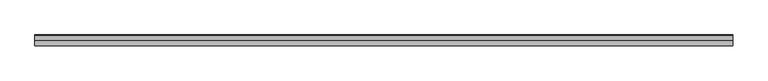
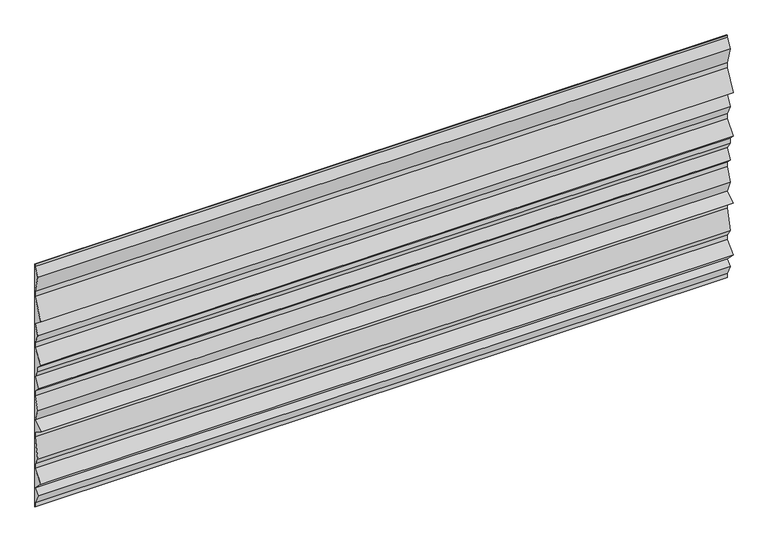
"""IFC4 building model written with IfcOpenShell, lengths in millimetres: plate geometry, ATELIERS 3S_GLACE PISSAILLAS 1000_HORIZONTAL : AZURO."""

from ifc_helpers import new_model, si_unit, frame, origin, place, context, project, spatial, polyline, outline, extrude, source, transform, mapped, element, save


def plate_bc900c31(model_context):
    return source(origin(), model_context, "Body", "SweptSolid", [
        extrude(outline(polyline([(-0.8, 0.0), (-0.8, 16.9163895), (-20.9135393, 57.5498441), (-1.0660999, 76.9962838), (-41.0606602, 116.9908441), (-0.75, 157.3015043), (-0.75, 176.7637624), (-20.8080747, 206.8508744), (-0.75, 287.0831733), (-0.75, 306.5751584), (-41.4150972, 331.9908441), (-0.9292392, 357.2945053), (-20.8077747, 406.9908441), (-0.75, 457.1352809), (-0.75, 476.6801839), (-20.9125704, 496.8427543), (-0.8654665, 536.9369621), (-20.75, 566.7637624), (-20.75, 586.6801839), (-41.009736, 606.9399199), (-0.75, 656.2580964), (-0.75, 675.8137931), (-20.8385255, 715.9908441), (-0.9507458, 755.7664035), (-40.9507458, 785.7664035), (-0.75, 866.1678951), (-0.75, 885.8862432), (-20.8096981, 956.4025169), (-0.8, 990.1124394), (-0.8, 1000.0), (0.0, 1000.0), (0.0, 0.0), (-0.8, 0.0)])), frame((-1347.25, 0.0, 0.0), z_axis=(1.0, 0.0, 0.0), x_axis=(0.0, 1.0, 0.0)), (0.0, 0.0, 1.0), 2694.5),
    ])


if __name__ == "__main__":
    model = new_model("IFC4")
    model_context = context("Model", 3, world=origin())
    ifc_project = project(units=[si_unit("LENGTHUNIT", "METRE", prefix="MILLI")], contexts=[model_context])
    site = spatial("IfcSite", under=ifc_project)
    building = spatial("IfcBuilding", under=site)
    placement = place(None, origin())
    plate_shape = plate_bc900c31(model_context)
    element("IfcPlate", 1, ObjectType="ATELIERS 3S_GLACE PISSAILLAS 1000_HORIZONTAL : AZURO", at=placement, inside=building, context=model_context, shape_type="MappedRepresentation", body=[
        mapped(plate_shape, transform((0.0, 0.0, 0.0), x_axis=(1.0, 0.0, 0.0), y_axis=(0.0, 1.0, 0.0), z_axis=(0.0, 0.0, 1.0))),
    ])
    save(model, "model.ifc")
